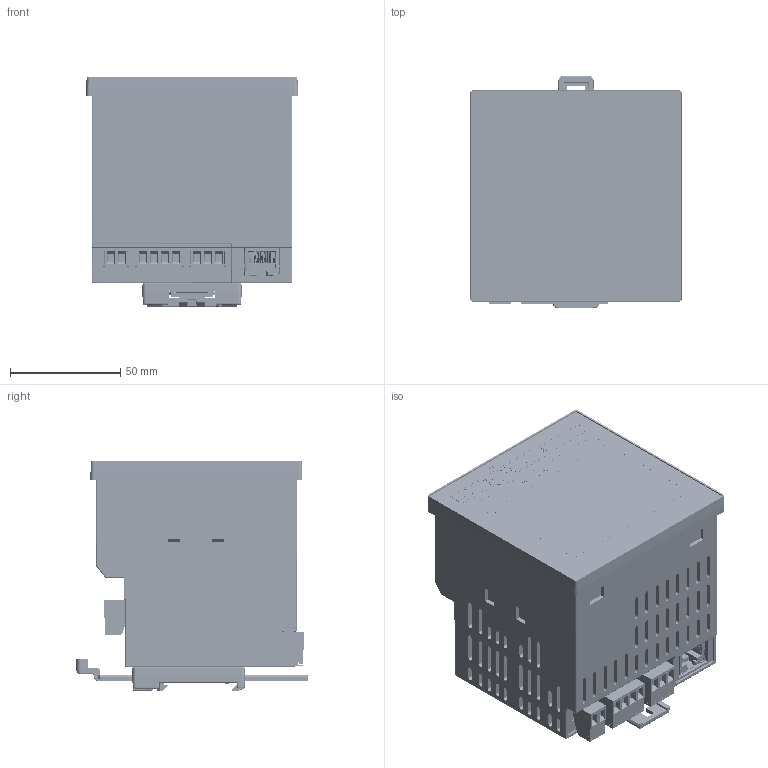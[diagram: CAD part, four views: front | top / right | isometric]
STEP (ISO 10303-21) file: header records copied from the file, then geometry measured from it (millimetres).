
FILE_DESCRIPTION (( 'STEP AP214' ), '1' );
FILE_NAME ('PQ1000 - 2... ..STEP', '2021-07-22T12:53:42', ( '' ), ( '' ), 'SwSTEP 2.0', 'SolidWorks 2019', '' );
FILE_SCHEMA (( 'AUTOMOTIVE_DESIGN' ));
Length unit declared in the file: millimetre
Products named in the file (1): PQ1000 - 2... .
Bounding box: 96 x 105 x 104.3 mm (x, y, z)
Surface area: 208241.5 mm2 (no closed solid volume)
Topology: 0 solids, 217 shells, 7416 faces, 20514 edges, 13677 vertices
Faces by surface type: plane 4970, cylinder 1375, bspline 893, cone 159, sphere 15, torus 4
Full cylindrical faces by diameter (mm): 8.269 x1, 8.654 x1, 13.557 x1, 14.101 x1
Entity records: 398470 total; most frequent: CARTESIAN_POINT 162919, ORIENTED_EDGE 39786, EDGE_CURVE 20459, DIRECTION 17636, B_SPLINE_CURVE_WITH_KNOTS 16240, VERTEX_POINT 13671, EDGE_LOOP 8205, UNCERTAINTY_MEASURE_WITH_UNIT 7427
